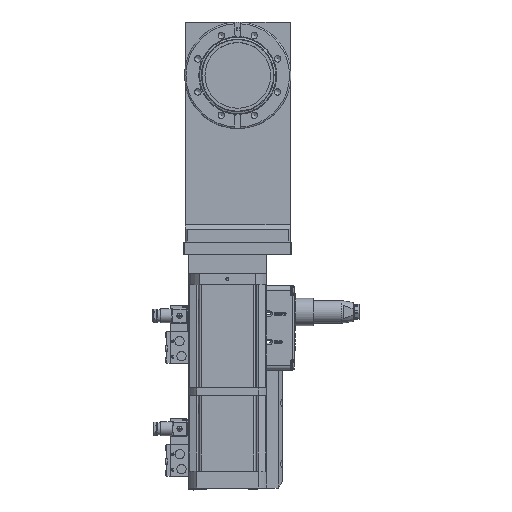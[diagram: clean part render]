
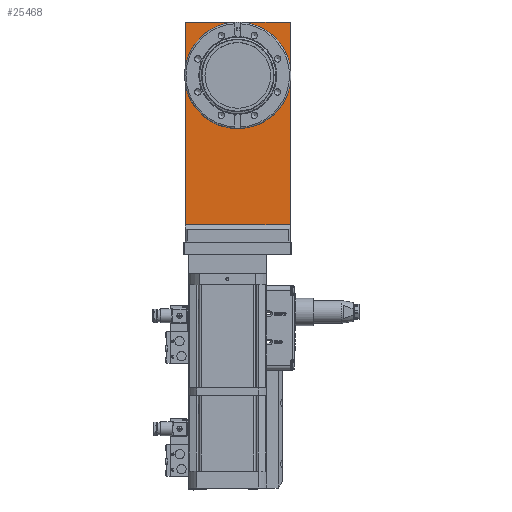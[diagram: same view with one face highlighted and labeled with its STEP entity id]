
A CAD part, top view. The second image highlights one B-rep face of the part: STEP entity #25468.
In plain terms, the highlighted planar face has unit normal (0, 0, 1).
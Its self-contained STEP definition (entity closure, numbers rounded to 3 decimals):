
#11865=LINE('',#77373,#15546);
#11870=LINE('',#77388,#15551);
#11872=LINE('',#77392,#15553);
#11875=LINE('',#77397,#15556);
#15546=VECTOR('',#64876,1.);
#15551=VECTOR('',#64883,1.);
#15553=VECTOR('',#64887,1.);
#15556=VECTOR('',#64892,1.);
#25468=ADVANCED_FACE('',(#29762,#29763),#28081,.T.);
#28081=PLANE('',#59705);
#29762=FACE_BOUND('',#31663,.T.);
#29763=FACE_BOUND('',#31664,.T.);
#31663=EDGE_LOOP('',(#36272,#36273,#36274,#36275));
#31664=EDGE_LOOP('',(#36276));
#36272=ORIENTED_EDGE('',*,*,#52415,.F.);
#36273=ORIENTED_EDGE('',*,*,#52421,.T.);
#36274=ORIENTED_EDGE('',*,*,#52426,.T.);
#36275=ORIENTED_EDGE('',*,*,#52423,.T.);
#36276=ORIENTED_EDGE('',*,*,#52428,.F.);
#47708=VERTEX_POINT('',#77372);
#47709=VERTEX_POINT('',#77374);
#47713=VERTEX_POINT('',#77387);
#47715=VERTEX_POINT('',#77393);
#47717=VERTEX_POINT('',#77402);
#52415=EDGE_CURVE('',#47708,#47709,#11865,.T.);
#52421=EDGE_CURVE('',#47708,#47713,#11870,.T.);
#52423=EDGE_CURVE('',#47715,#47709,#11872,.T.);
#52426=EDGE_CURVE('',#47713,#47715,#11875,.T.);
#52428=EDGE_CURVE('',#47717,#47717,#57965,.T.);
#57965=CIRCLE('',#59703,35.05);
#59703=AXIS2_PLACEMENT_3D('',#77401,#64897,#64898);
#59705=AXIS2_PLACEMENT_3D('',#77404,#64901,#64902);
#64876=DIRECTION('',(-1.,0.,0.));
#64883=DIRECTION('',(0.,1.,0.));
#64887=DIRECTION('',(0.,-1.,0.));
#64892=DIRECTION('',(-1.,0.,0.));
#64897=DIRECTION('',(0.,0.,1.));
#64898=DIRECTION('',(1.,0.,0.));
#64901=DIRECTION('',(0.,0.,1.));
#64902=DIRECTION('',(1.,0.,0.));
#77372=CARTESIAN_POINT('',(56.,-177.8,26.975));
#77373=CARTESIAN_POINT('',(0.,-177.8,26.975));
#77374=CARTESIAN_POINT('',(-56.,-177.8,26.975));
#77387=CARTESIAN_POINT('',(56.,57.05,26.975));
#77388=CARTESIAN_POINT('',(56.,-179.1,26.975));
#77392=CARTESIAN_POINT('',(-56.,57.05,26.975));
#77393=CARTESIAN_POINT('',(-56.,57.05,26.975));
#77397=CARTESIAN_POINT('',(56.,57.05,26.975));
#77401=CARTESIAN_POINT('',(0.,0.,
26.975));
#77402=CARTESIAN_POINT('',(35.05,0.,26.975));
#77404=CARTESIAN_POINT('',(0.,0.,
26.975));
